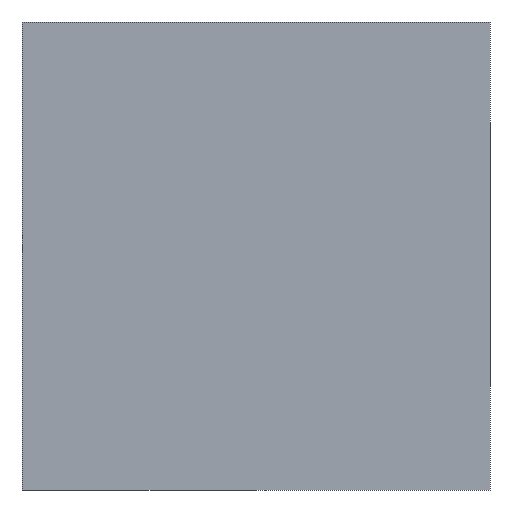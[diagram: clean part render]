
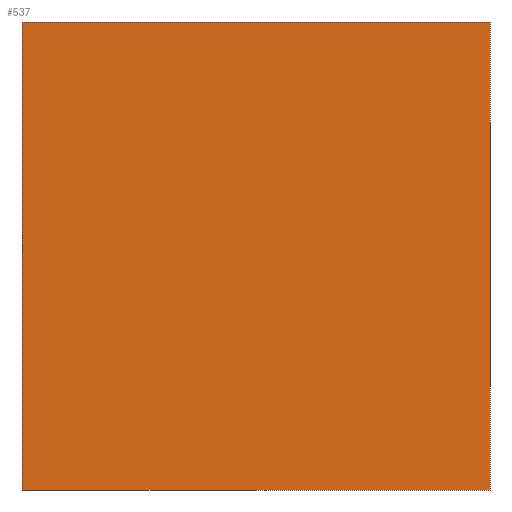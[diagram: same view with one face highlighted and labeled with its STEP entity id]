
A CAD part, left-side view. The second image highlights one B-rep face of the part: STEP entity #537.
In plain terms, the highlighted planar face has unit normal (-1, 0, 0).
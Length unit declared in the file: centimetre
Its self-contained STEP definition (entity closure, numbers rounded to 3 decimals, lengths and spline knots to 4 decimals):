
#2 = DIRECTION ( 'NONE',  ( 0., 0., -1. ) ) ;
#18 = CARTESIAN_POINT ( 'NONE',  ( 0., 0., 1000. ) ) ;
#44 = CARTESIAN_POINT ( 'NONE',  ( 0., 1000., 0. ) ) ;
#48 = DIRECTION ( 'NONE',  ( 1., 0., 0. ) ) ;
#51 = VECTOR ( 'NONE', #2, 100. ) ;
#54 = AXIS2_PLACEMENT_3D ( 'NONE', #430, #48, #374 ) ;
#60 = FACE_OUTER_BOUND ( 'NONE', #167, .T. ) ;
#73 = EDGE_CURVE ( 'NONE', #609, #174, #494, .T. ) ;
#94 = CARTESIAN_POINT ( 'NONE',  ( 0., 1000., 1000. ) ) ;
#116 = CARTESIAN_POINT ( 'NONE',  ( 0., 1000., 0. ) ) ;
#130 = CARTESIAN_POINT ( 'NONE',  ( 0., 0., 0. ) ) ;
#136 = ORIENTED_EDGE ( 'NONE', *, *, #400, .T. ) ;
#167 = EDGE_LOOP ( 'NONE', ( #136, #422, #660, #380 ) ) ;
#174 = VERTEX_POINT ( 'NONE', #44 ) ;
#176 = LINE ( 'NONE', #116, #701 ) ;
#240 = DIRECTION ( 'NONE',  ( 0., 0., -1. ) ) ;
#262 = LINE ( 'NONE', #482, #279 ) ;
#279 = VECTOR ( 'NONE', #468, 100. ) ;
#295 = EDGE_CURVE ( 'NONE', #693, #300, #513, .T. ) ;
#300 = VERTEX_POINT ( 'NONE', #130 ) ;
#318 = CARTESIAN_POINT ( 'NONE',  ( 0., 1000., 1000. ) ) ;
#324 = VECTOR ( 'NONE', #240, 100. ) ;
#374 = DIRECTION ( 'NONE',  ( 0., 0., -1. ) ) ;
#380 = ORIENTED_EDGE ( 'NONE', *, *, #73, .T. ) ;
#400 = EDGE_CURVE ( 'NONE', #174, #300, #176, .T. ) ;
#422 = ORIENTED_EDGE ( 'NONE', *, *, #295, .F. ) ;
#430 = CARTESIAN_POINT ( 'NONE',  ( 0., 1000., 1000. ) ) ;
#468 = DIRECTION ( 'NONE',  ( 0., -1., 0. ) ) ;
#482 = CARTESIAN_POINT ( 'NONE',  ( 0., 1000., 1000. ) ) ;
#494 = LINE ( 'NONE', #94, #51 ) ;
#506 = EDGE_CURVE ( 'NONE', #609, #693, #262, .T. ) ;
#508 = DIRECTION ( 'NONE',  ( 0., -1., 0. ) ) ;
#513 = LINE ( 'NONE', #18, #324 ) ;
#537 = ADVANCED_FACE ( 'NONE', ( #60 ), #658, .F. ) ;
#609 = VERTEX_POINT ( 'NONE', #318 ) ;
#622 = CARTESIAN_POINT ( 'NONE',  ( 0., 0., 1000. ) ) ;
#658 = PLANE ( 'NONE',  #54 ) ;
#660 = ORIENTED_EDGE ( 'NONE', *, *, #506, .F. ) ;
#693 = VERTEX_POINT ( 'NONE', #622 ) ;
#701 = VECTOR ( 'NONE', #508, 100. ) ;
